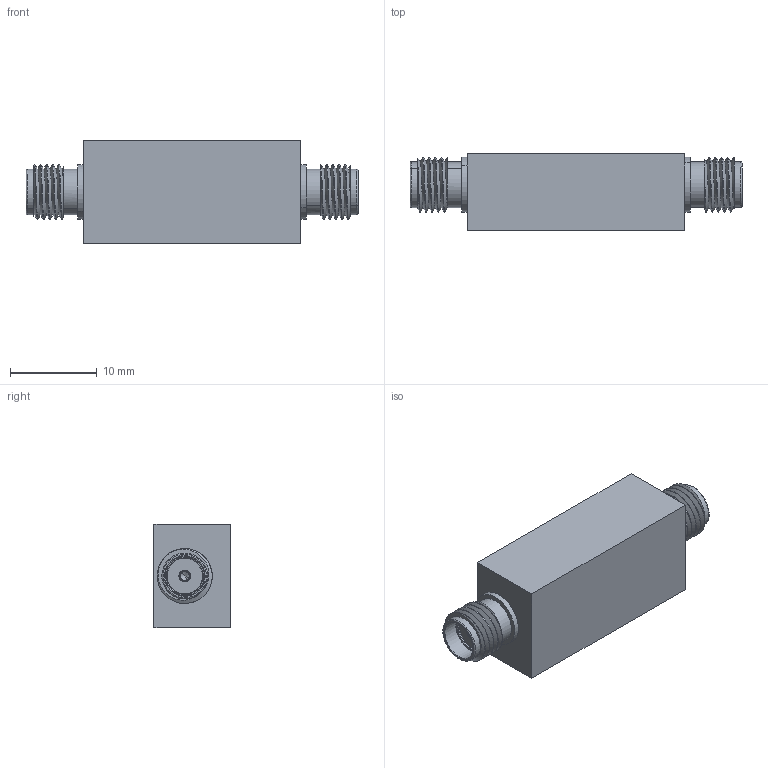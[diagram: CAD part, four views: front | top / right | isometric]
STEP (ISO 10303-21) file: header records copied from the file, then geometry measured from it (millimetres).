
FILE_DESCRIPTION (( 'STEP AP214' ), '1' );
FILE_NAME ('3D MODEL.STEP', '2024-08-20T15:23:34', ( '' ), ( '' ), 'SwSTEP 2.0', 'SolidWorks 2024', '' );
FILE_SCHEMA (( 'AUTOMOTIVE_DESIGN' ));
Length unit declared in the file: inch
Products named in the file (1): 3D MODEL
Bounding box: 38.35 x 8.99 x 11.94 mm (x, y, z)
Volume: 3047.3 mm3; surface area: 2423.2 mm2
Topology: 4 solids, 6 shells, 1166 faces, 4186 edges, 3158 vertices
Faces by surface type: cylinder 568, torus 420, plane 158, cone 16, bspline 4
Entity records: 65007 total; most frequent: CARTESIAN_POINT 29708, ORIENTED_EDGE 8340, DIRECTION 6547, EDGE_CURVE 4170, VERTEX_POINT 3158, AXIS2_PLACEMENT_3D 2613, CIRCLE 1450, B_SPLINE_CURVE_WITH_KNOTS 1355
